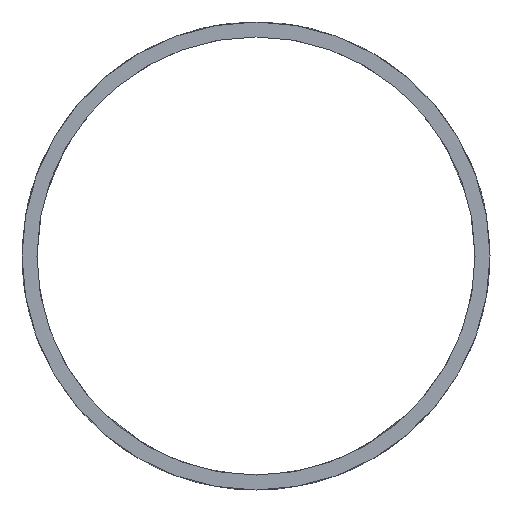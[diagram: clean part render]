
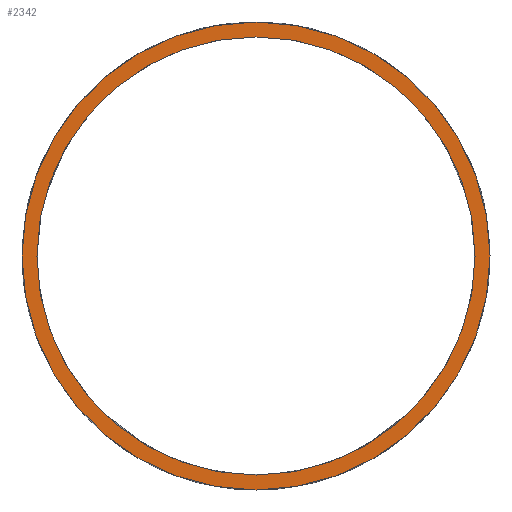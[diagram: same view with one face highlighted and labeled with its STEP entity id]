
A CAD part, left-side view. The second image highlights one B-rep face of the part: STEP entity #2342.
In plain terms, the highlighted planar face has unit normal (-1, 0, 0).
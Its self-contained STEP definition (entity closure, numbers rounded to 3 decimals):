
#22 = VERTEX_POINT('',#23);
#23 = CARTESIAN_POINT('',(28.,0.,18.75));
#32 = CYLINDRICAL_SURFACE('',#33,18.75);
#33 = AXIS2_PLACEMENT_3D('',#34,#35,#36);
#34 = CARTESIAN_POINT('',(28.,0.,0.));
#35 = DIRECTION('',(1.,0.,0.));
#36 = DIRECTION('',(-0.,0.,1.));
#514 = EDGE_CURVE('',#22,#22,#515,.T.);
#515 = SURFACE_CURVE('',#516,(#521,#528),.PCURVE_S1.);
#516 = CIRCLE('',#517,18.75);
#517 = AXIS2_PLACEMENT_3D('',#518,#519,#520);
#518 = CARTESIAN_POINT('',(28.,0.,0.));
#519 = DIRECTION('',(1.,0.,0.));
#520 = DIRECTION('',(-0.,0.,1.));
#521 = PCURVE('',#32,#522);
#522 = DEFINITIONAL_REPRESENTATION('',(#523),#527);
#523 = LINE('',#524,#525);
#524 = CARTESIAN_POINT('',(0.,0.));
#525 = VECTOR('',#526,1.);
#526 = DIRECTION('',(1.,0.));
#527 = ( GEOMETRIC_REPRESENTATION_CONTEXT(2) 
PARAMETRIC_REPRESENTATION_CONTEXT() REPRESENTATION_CONTEXT('2D SPACE',''
  ) );
#528 = PCURVE('',#529,#534);
#529 = PLANE('',#530);
#530 = AXIS2_PLACEMENT_3D('',#531,#532,#533);
#531 = CARTESIAN_POINT('',(28.,0.,0.));
#532 = DIRECTION('',(1.,0.,0.));
#533 = DIRECTION('',(-0.,0.,1.));
#534 = DEFINITIONAL_REPRESENTATION('',(#535),#539);
#535 = CIRCLE('',#536,18.75);
#536 = AXIS2_PLACEMENT_2D('',#537,#538);
#537 = CARTESIAN_POINT('',(0.,0.));
#538 = DIRECTION('',(1.,0.));
#539 = ( GEOMETRIC_REPRESENTATION_CONTEXT(2) 
PARAMETRIC_REPRESENTATION_CONTEXT() REPRESENTATION_CONTEXT('2D SPACE',''
  ) );
#581 = CYLINDRICAL_SURFACE('',#582,17.55);
#582 = AXIS2_PLACEMENT_3D('',#583,#584,#585);
#583 = CARTESIAN_POINT('',(27.,0.,0.));
#584 = DIRECTION('',(1.,0.,0.));
#585 = DIRECTION('',(-0.,0.,1.));
#668 = VERTEX_POINT('',#669);
#669 = CARTESIAN_POINT('',(28.,0.,17.55));
#1068 = EDGE_CURVE('',#668,#668,#1069,.T.);
#1069 = SURFACE_CURVE('',#1070,(#1075,#1082),.PCURVE_S1.);
#1070 = CIRCLE('',#1071,17.55);
#1071 = AXIS2_PLACEMENT_3D('',#1072,#1073,#1074);
#1072 = CARTESIAN_POINT('',(28.,0.,0.));
#1073 = DIRECTION('',(1.,0.,0.));
#1074 = DIRECTION('',(-0.,0.,1.));
#1075 = PCURVE('',#581,#1076);
#1076 = DEFINITIONAL_REPRESENTATION('',(#1077),#1081);
#1077 = LINE('',#1078,#1079);
#1078 = CARTESIAN_POINT('',(0.,1.));
#1079 = VECTOR('',#1080,1.);
#1080 = DIRECTION('',(1.,0.));
#1081 = ( GEOMETRIC_REPRESENTATION_CONTEXT(2) 
PARAMETRIC_REPRESENTATION_CONTEXT() REPRESENTATION_CONTEXT('2D SPACE',''
  ) );
#1082 = PCURVE('',#529,#1083);
#1083 = DEFINITIONAL_REPRESENTATION('',(#1084),#1088);
#1084 = CIRCLE('',#1085,17.55);
#1085 = AXIS2_PLACEMENT_2D('',#1086,#1087);
#1086 = CARTESIAN_POINT('',(0.,0.));
#1087 = DIRECTION('',(1.,0.));
#1088 = ( GEOMETRIC_REPRESENTATION_CONTEXT(2) 
PARAMETRIC_REPRESENTATION_CONTEXT() REPRESENTATION_CONTEXT('2D SPACE',''
  ) );
#2342 = ADVANCED_FACE('',(#2343,#2346),#529,.F.);
#2343 = FACE_BOUND('',#2344,.F.);
#2344 = EDGE_LOOP('',(#2345));
#2345 = ORIENTED_EDGE('',*,*,#514,.T.);
#2346 = FACE_BOUND('',#2347,.F.);
#2347 = EDGE_LOOP('',(#2348));
#2348 = ORIENTED_EDGE('',*,*,#1068,.F.);
